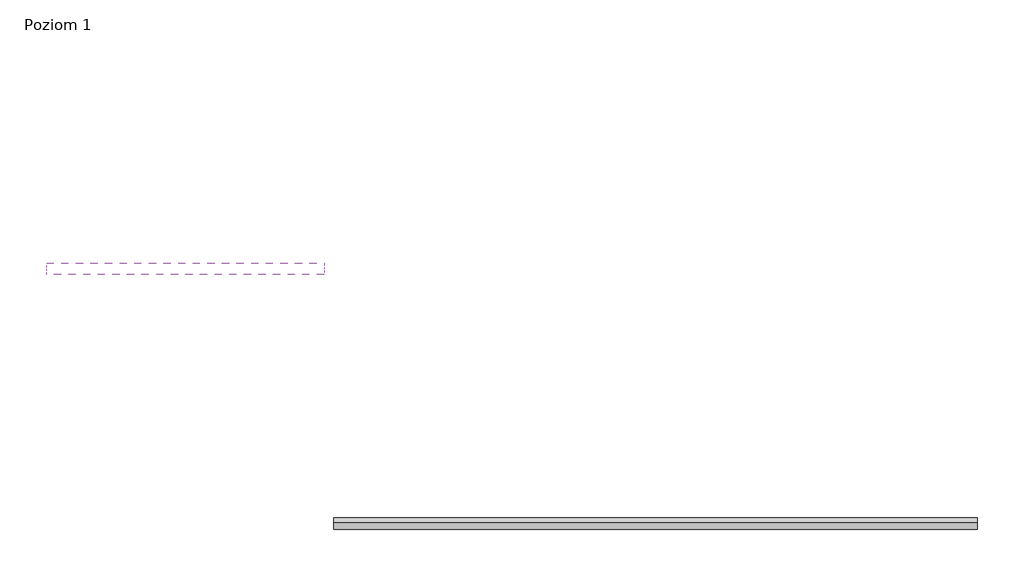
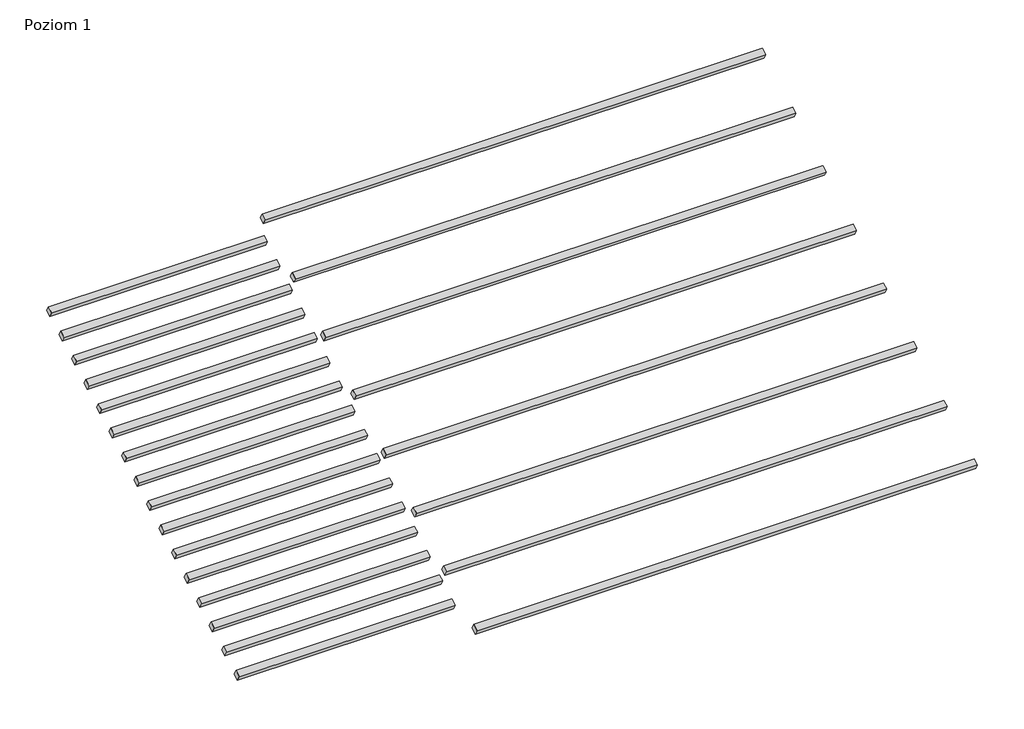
# One storey, incomplete: 2 proxies.
"""IFC4 building model written with IfcOpenShell, lengths in millimetres."""

from ifc_helpers import new_model, si_unit, origin, place, context, project, spatial, transform, mapped, element, save
from components import battens_battens_fa787d6b, battens_battens_8fe84e2e

model = new_model("IFC4")

# Units and contexts
model_context = context("Model", 3, world=origin())
ifc_project = project(units=[si_unit("LENGTHUNIT", "METRE", prefix="MILLI")], contexts=[model_context])

# Site, building, storey
site = spatial("IfcSite", under=ifc_project)
building = spatial("IfcBuilding", under=site)
storey = spatial("IfcBuildingStorey", under=building, Name="Poziom 1", Elevation=0.0)

# Proxies
placement = place(None, origin())
battens_battens_shape = battens_battens_fa787d6b(model_context)
element("IfcBuildingElementProxy", 1, Name="Battens : Battens", ObjectType="Battens : Battens", at=placement, inside=storey, context=model_context, shape_type="MappedRepresentation", body=[
    mapped(battens_battens_shape, transform((-230.7886234, 4094.5738656, 2436.9485426), x_axis=(1.0, 0.0, 0.0), y_axis=(0.0, 0.8660254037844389, 0.4999999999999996), z_axis=(0.0, -0.4999999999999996, 0.8660254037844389))),
])
battens_battens_2_shape = battens_battens_8fe84e2e(model_context)
element("IfcBuildingElementProxy", 2, Name="Battens : Battens", ObjectType="Battens : Battens", at=placement, inside=storey, context=model_context, shape_type="MappedRepresentation", body=[
    mapped(battens_battens_2_shape, transform((-1615.027176, 3989.4589373, 2376.2604105), x_axis=(1.0, 0.0, 0.0), y_axis=(0.0, 0.8660254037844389, 0.4999999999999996), z_axis=(0.0, -0.4999999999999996, 0.8660254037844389))),
])

save(model, "model.ifc")
